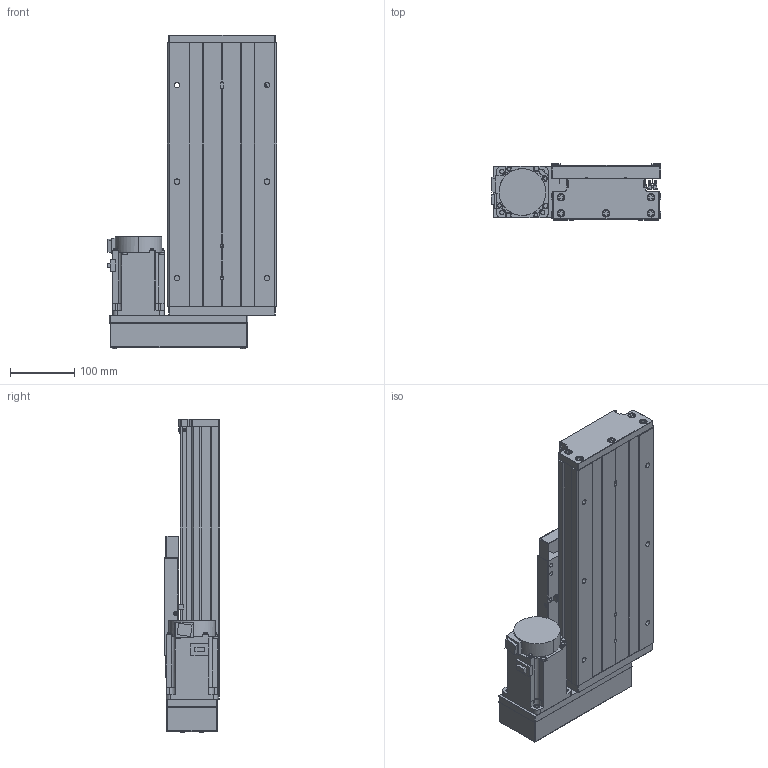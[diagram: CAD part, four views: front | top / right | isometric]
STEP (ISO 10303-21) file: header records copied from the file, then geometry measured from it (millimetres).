
FILE_DESCRIPTION (( 'STEP AP203' ), '1' );
FILE_NAME ('GTH17-150-BL-M75-C4.step', '2023-06-30T11:59:41', ( '微软用户' ), ( '微软中国' ), 'SwSTEP 2.0', 'SolidWorks 2020', '' );
FILE_SCHEMA (( 'CONFIG_CONTROL_DESIGN' ));
Length unit declared in the file: millimetre
Products named in the file (19): CTHA60-017; GBT 70.2-M3¡Á5_M3¡Á6; EE_SX911P_R; す晦芛蹟隊 M3℅5; GTH17-001_150; CTHA60-016; HG-KN73J-S100; GTH17-002_GTH17-002; GBT 70.1-M3℅5; GBT 70.2-M4¡Á45_M4¡Á35; GTH17-004; GBT77-2000 M3×3; GTH17-015-2_CTHA86-015-2; GTH17-005; GBT 70.1-M6¡Á20_M6¡Á20; GTH17-033; GB1155-6X6; GTH17-031; GTH17-150-BL-M75-C4
Assembly tree (58 placements, depth 2):
  GTH17-150-BL-M75-C4
    GTH17-001_150
    GTH17-002_GTH17-002
    GTH17-004
    GTH17-005
    GB1155-6X6  x2
    CTHA60-017  x3
    EE_SX911P_R  x3
    CTHA60-016  x2
    GBT 70.1-M3℅5  x6
    GBT77-2000 M3×3  x6
    GBT 70.1-M6¡Á20_M6¡Á20  x10
    GTH17-031
    GBT 70.2-M3¡Á5_M3¡Á6  x8
    す晦芛蹟隊 M3℅5  x6
    HG-KN73J-S100
    GBT 70.2-M4¡Á45_M4¡Á35  x4
    GTH17-015-2_CTHA86-015-2
    GTH17-033
Bounding box: 264.3 x 87 x 488.2 mm (x, y, z)
Volume: 4645632.4 mm3; surface area: 771679.4 mm2
Topology: 61 solids, 61 shells, 2419 faces, 5773 edges, 3571 vertices
Faces by surface type: plane 1304, cylinder 642, cone 297, torus 124, sphere 32, bspline 20
Entity records: 43814 total; most frequent: CARTESIAN_POINT 10216, DIRECTION 6301, ORIENTED_EDGE 6258, EDGE_CURVE 3129, AXIS2_PLACEMENT_3D 2134, LINE 2033, VECTOR 2033, VERTEX_POINT 1983
